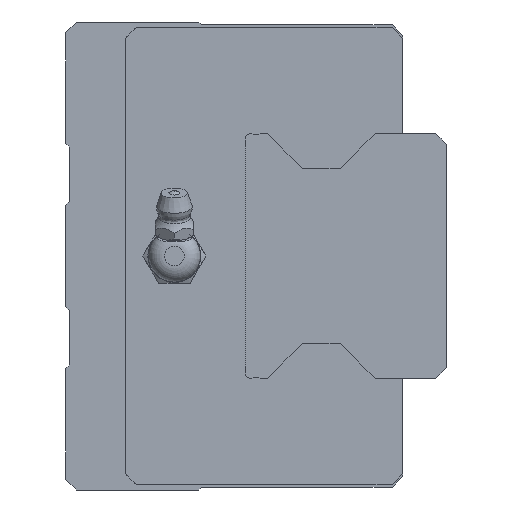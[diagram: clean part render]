
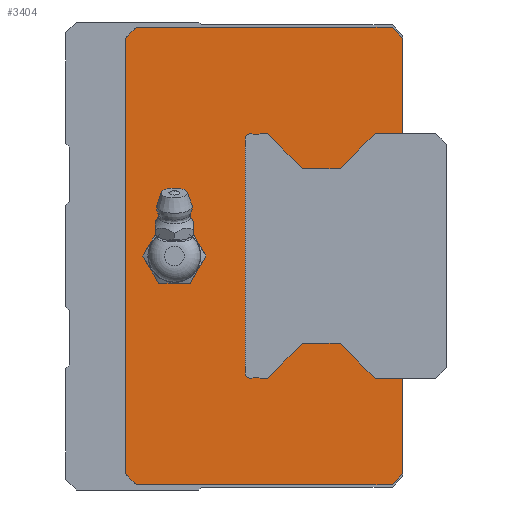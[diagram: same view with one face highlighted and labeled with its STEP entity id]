
A CAD part, left-side view. The second image highlights one B-rep face of the part: STEP entity #3404.
In plain terms, the highlighted planar face has unit normal (-1, 0, 0).
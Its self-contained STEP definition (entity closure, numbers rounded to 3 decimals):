
#168=CIRCLE('',#3718,4.989);
#169=CIRCLE('',#3719,0.26);
#170=CIRCLE('',#3720,0.26);
#171=CIRCLE('',#3721,1.);
#172=CIRCLE('',#3722,1.);
#173=CIRCLE('',#3723,0.26);
#174=CIRCLE('',#3724,0.26);
#654=ORIENTED_EDGE('',*,*,#1398,.T.);
#655=ORIENTED_EDGE('',*,*,#1399,.T.);
#656=ORIENTED_EDGE('',*,*,#1391,.F.);
#657=ORIENTED_EDGE('',*,*,#1361,.F.);
#658=ORIENTED_EDGE('',*,*,#1357,.F.);
#659=ORIENTED_EDGE('',*,*,#1349,.F.);
#660=ORIENTED_EDGE('',*,*,#1382,.F.);
#661=ORIENTED_EDGE('',*,*,#1334,.F.);
#662=ORIENTED_EDGE('',*,*,#1372,.F.);
#663=ORIENTED_EDGE('',*,*,#1369,.F.);
#664=ORIENTED_EDGE('',*,*,#1393,.F.);
#665=ORIENTED_EDGE('',*,*,#1400,.T.);
#666=ORIENTED_EDGE('',*,*,#1401,.T.);
#667=ORIENTED_EDGE('',*,*,#1402,.F.);
#668=ORIENTED_EDGE('',*,*,#1403,.T.);
#669=ORIENTED_EDGE('',*,*,#1404,.F.);
#670=ORIENTED_EDGE('',*,*,#1405,.T.);
#671=ORIENTED_EDGE('',*,*,#1406,.T.);
#672=ORIENTED_EDGE('',*,*,#1407,.T.);
#673=ORIENTED_EDGE('',*,*,#1408,.T.);
#674=ORIENTED_EDGE('',*,*,#1409,.T.);
#675=ORIENTED_EDGE('',*,*,#1410,.T.);
#676=ORIENTED_EDGE('',*,*,#1411,.T.);
#677=ORIENTED_EDGE('',*,*,#1412,.T.);
#678=ORIENTED_EDGE('',*,*,#1413,.T.);
#679=ORIENTED_EDGE('',*,*,#1414,.T.);
#680=ORIENTED_EDGE('',*,*,#1415,.T.);
#681=ORIENTED_EDGE('',*,*,#1416,.F.);
#682=ORIENTED_EDGE('',*,*,#1417,.T.);
#683=ORIENTED_EDGE('',*,*,#1418,.F.);
#684=ORIENTED_EDGE('',*,*,#1419,.T.);
#1334=EDGE_CURVE('',#1746,#1747,#2058,.T.);
#1349=EDGE_CURVE('',#1761,#1762,#2073,.T.);
#1357=EDGE_CURVE('',#1762,#1768,#2080,.T.);
#1361=EDGE_CURVE('',#1768,#1770,#2084,.T.);
#1369=EDGE_CURVE('',#1777,#1778,#2092,.T.);
#1372=EDGE_CURVE('',#1778,#1746,#2095,.T.);
#1382=EDGE_CURVE('',#1747,#1761,#2103,.T.);
#1391=EDGE_CURVE('',#1770,#1783,#2111,.T.);
#1393=EDGE_CURVE('',#1786,#1777,#2113,.T.);
#1398=EDGE_CURVE('',#1790,#1790,#168,.T.);
#1399=EDGE_CURVE('',#1791,#1783,#2118,.T.);
#1400=EDGE_CURVE('',#1786,#1792,#2119,.T.);
#1401=EDGE_CURVE('',#1792,#1793,#2120,.T.);
#1402=EDGE_CURVE('',#1794,#1793,#169,.T.);
#1403=EDGE_CURVE('',#1794,#1795,#2121,.T.);
#1404=EDGE_CURVE('',#1796,#1795,#170,.T.);
#1405=EDGE_CURVE('',#1796,#1797,#2122,.T.);
#1406=EDGE_CURVE('',#1797,#1798,#2123,.T.);
#1407=EDGE_CURVE('',#1798,#1799,#2124,.T.);
#1408=EDGE_CURVE('',#1799,#1800,#2125,.T.);
#1409=EDGE_CURVE('',#1800,#1801,#171,.T.);
#1410=EDGE_CURVE('',#1801,#1802,#2126,.T.);
#1411=EDGE_CURVE('',#1802,#1803,#172,.T.);
#1412=EDGE_CURVE('',#1803,#1804,#2127,.T.);
#1413=EDGE_CURVE('',#1804,#1805,#2128,.T.);
#1414=EDGE_CURVE('',#1805,#1806,#2129,.T.);
#1415=EDGE_CURVE('',#1806,#1807,#2130,.T.);
#1416=EDGE_CURVE('',#1808,#1807,#173,.T.);
#1417=EDGE_CURVE('',#1808,#1809,#2131,.T.);
#1418=EDGE_CURVE('',#1810,#1809,#174,.T.);
#1419=EDGE_CURVE('',#1810,#1791,#2132,.T.);
#1746=VERTEX_POINT('',#5260);
#1747=VERTEX_POINT('',#5262);
#1761=VERTEX_POINT('',#5291);
#1762=VERTEX_POINT('',#5293);
#1768=VERTEX_POINT('',#5309);
#1770=VERTEX_POINT('',#5316);
#1777=VERTEX_POINT('',#5331);
#1778=VERTEX_POINT('',#5333);
#1783=VERTEX_POINT('',#5362);
#1786=VERTEX_POINT('',#5372);
#1790=VERTEX_POINT('',#5383);
#1791=VERTEX_POINT('',#5385);
#1792=VERTEX_POINT('',#5387);
#1793=VERTEX_POINT('',#5389);
#1794=VERTEX_POINT('',#5391);
#1795=VERTEX_POINT('',#5393);
#1796=VERTEX_POINT('',#5395);
#1797=VERTEX_POINT('',#5397);
#1798=VERTEX_POINT('',#5399);
#1799=VERTEX_POINT('',#5401);
#1800=VERTEX_POINT('',#5403);
#1801=VERTEX_POINT('',#5405);
#1802=VERTEX_POINT('',#5407);
#1803=VERTEX_POINT('',#5409);
#1804=VERTEX_POINT('',#5411);
#1805=VERTEX_POINT('',#5413);
#1806=VERTEX_POINT('',#5415);
#1807=VERTEX_POINT('',#5417);
#1808=VERTEX_POINT('',#5419);
#1809=VERTEX_POINT('',#5421);
#1810=VERTEX_POINT('',#5423);
#2058=LINE('',#5261,#2346);
#2073=LINE('',#5292,#2361);
#2080=LINE('',#5308,#2368);
#2084=LINE('',#5315,#2372);
#2092=LINE('',#5332,#2380);
#2095=LINE('',#5337,#2383);
#2103=LINE('',#5353,#2391);
#2111=LINE('',#5369,#2399);
#2113=LINE('',#5374,#2401);
#2118=LINE('',#5384,#2406);
#2119=LINE('',#5386,#2407);
#2120=LINE('',#5388,#2408);
#2121=LINE('',#5392,#2409);
#2122=LINE('',#5396,#2410);
#2123=LINE('',#5398,#2411);
#2124=LINE('',#5400,#2412);
#2125=LINE('',#5402,#2413);
#2126=LINE('',#5406,#2414);
#2127=LINE('',#5410,#2415);
#2128=LINE('',#5412,#2416);
#2129=LINE('',#5414,#2417);
#2130=LINE('',#5416,#2418);
#2131=LINE('',#5420,#2419);
#2132=LINE('',#5424,#2420);
#2346=VECTOR('',#4278,1000.);
#2361=VECTOR('',#4295,1000.);
#2368=VECTOR('',#4308,1000.);
#2372=VECTOR('',#4314,1000.);
#2380=VECTOR('',#4324,1000.);
#2383=VECTOR('',#4329,1000.);
#2391=VECTOR('',#4349,1000.);
#2399=VECTOR('',#4363,1000.);
#2401=VECTOR('',#4367,1000.);
#2406=VECTOR('',#4376,1000.);
#2407=VECTOR('',#4377,1000.);
#2408=VECTOR('',#4378,1000.);
#2409=VECTOR('',#4381,1000.);
#2410=VECTOR('',#4384,1000.);
#2411=VECTOR('',#4385,1000.);
#2412=VECTOR('',#4386,1000.);
#2413=VECTOR('',#4387,1000.);
#2414=VECTOR('',#4390,1000.);
#2415=VECTOR('',#4393,1000.);
#2416=VECTOR('',#4394,1000.);
#2417=VECTOR('',#4395,1000.);
#2418=VECTOR('',#4396,1000.);
#2419=VECTOR('',#4399,1000.);
#2420=VECTOR('',#4402,1000.);
#2672=EDGE_LOOP('',(#654));
#2673=EDGE_LOOP('',(#655,#656,#657,#658,#659,#660,#661,#662,#663,#664,#665,
#666,#667,#668,#669,#670,#671,#672,#673,#674,#675,#676,#677,#678,#679,#680,
#681,#682,#683,#684));
#2999=FACE_BOUND('',#2672,.T.);
#3000=FACE_BOUND('',#2673,.T.);
#3246=PLANE('',#3717);
#3404=ADVANCED_FACE('',(#2999,#3000),#3246,.F.);
#3717=AXIS2_PLACEMENT_3D('',#5381,#4372,#4373);
#3718=AXIS2_PLACEMENT_3D('',#5382,#4374,#4375);
#3719=AXIS2_PLACEMENT_3D('',#5390,#4379,#4380);
#3720=AXIS2_PLACEMENT_3D('',#5394,#4382,#4383);
#3721=AXIS2_PLACEMENT_3D('',#5404,#4388,#4389);
#3722=AXIS2_PLACEMENT_3D('',#5408,#4391,#4392);
#3723=AXIS2_PLACEMENT_3D('',#5418,#4397,#4398);
#3724=AXIS2_PLACEMENT_3D('',#5422,#4400,#4401);
#4278=DIRECTION('',(0.,0.707,0.707));
#4295=DIRECTION('',(0.,-0.707,0.707));
#4308=DIRECTION('',(0.,-1.,0.));
#4314=DIRECTION('',(0.,-0.707,-0.707));
#4324=DIRECTION('',(0.,0.707,-0.707));
#4329=DIRECTION('',(0.,1.,0.));
#4349=DIRECTION('',(0.,0.,1.));
#4363=DIRECTION('',(0.,0.,-1.));
#4367=DIRECTION('',(0.,0.,-1.));
#4372=DIRECTION('',(1.,0.,0.));
#4373=DIRECTION('',(0.,0.,-1.));
#4374=DIRECTION('',(1.,0.,0.));
#4375=DIRECTION('',(0.,0.,-1.));
#4376=DIRECTION('',(0.,-1.,0.));
#4377=DIRECTION('',(0.,1.,0.));
#4378=DIRECTION('',(0.,0.707,0.707));
#4379=DIRECTION('',(1.,0.,0.));
#4380=DIRECTION('',(0.,0.,-1.));
#4381=DIRECTION('',(0.,1.,0.));
#4382=DIRECTION('',(1.,0.,0.));
#4383=DIRECTION('',(0.,0.,-1.));
#4384=DIRECTION('',(0.,0.707,-0.707));
#4385=DIRECTION('',(0.,1.,0.));
#4386=DIRECTION('',(0.,0.707,0.707));
#4387=DIRECTION('',(0.,1.,0.));
#4388=DIRECTION('',(1.,0.,0.));
#4389=DIRECTION('',(0.,0.,-1.));
#4390=DIRECTION('',(0.,0.,1.));
#4391=DIRECTION('',(1.,0.,0.));
#4392=DIRECTION('',(0.,0.,-1.));
#4393=DIRECTION('',(0.,-1.,0.));
#4394=DIRECTION('',(0.,-0.707,0.707));
#4395=DIRECTION('',(0.,-1.,0.));
#4396=DIRECTION('',(0.,-0.707,-0.707));
#4397=DIRECTION('',(1.,0.,0.));
#4398=DIRECTION('',(0.,0.,-1.));
#4399=DIRECTION('',(0.,-1.,0.));
#4400=DIRECTION('',(1.,0.,0.));
#4401=DIRECTION('',(0.,0.,-1.));
#4402=DIRECTION('',(0.,-0.707,0.707));
#5260=CARTESIAN_POINT('',(-115.75,49.,-42.));
#5261=CARTESIAN_POINT('',(-115.75,49.,-42.));
#5262=CARTESIAN_POINT('',(-115.75,51.,-40.));
#5291=CARTESIAN_POINT('',(-115.75,51.,40.));
#5292=CARTESIAN_POINT('',(-115.75,51.,40.));
#5293=CARTESIAN_POINT('',(-115.75,49.,42.));
#5308=CARTESIAN_POINT('',(-115.75,49.,42.));
#5309=CARTESIAN_POINT('',(-115.75,2.,42.));
#5315=CARTESIAN_POINT('',(-115.75,2.,42.));
#5316=CARTESIAN_POINT('',(-115.75,0.,40.));
#5331=CARTESIAN_POINT('',(-115.75,0.,-40.));
#5332=CARTESIAN_POINT('',(-115.75,0.,-40.));
#5333=CARTESIAN_POINT('',(-115.75,2.,-42.));
#5337=CARTESIAN_POINT('',(-115.75,2.,-42.));
#5353=CARTESIAN_POINT('',(-115.75,51.,-40.));
#5362=CARTESIAN_POINT('',(-115.75,0.,22.5));
#5369=CARTESIAN_POINT('',(-115.75,0.,40.));
#5372=CARTESIAN_POINT('',(-115.75,0.,-22.5));
#5374=CARTESIAN_POINT('',(-115.75,0.,40.));
#5381=CARTESIAN_POINT('',(-115.75,0.,0.));
#5382=CARTESIAN_POINT('',(-115.75,42.,0.));
#5383=CARTESIAN_POINT('',(-115.75,42.,-4.989));
#5384=CARTESIAN_POINT('',(-115.75,5.1,22.5));
#5385=CARTESIAN_POINT('',(-115.75,5.1,22.5));
#5386=CARTESIAN_POINT('',(-115.75,-6.,-22.5));
#5387=CARTESIAN_POINT('',(-115.75,5.1,-22.5));
#5388=CARTESIAN_POINT('',(-115.75,5.1,-22.5));
#5389=CARTESIAN_POINT('',(-115.75,11.524,-16.076));
#5390=CARTESIAN_POINT('',(-115.75,11.708,-16.26));
#5391=CARTESIAN_POINT('',(-115.75,11.708,-16.));
#5392=CARTESIAN_POINT('',(-115.75,11.708,-16.));
#5393=CARTESIAN_POINT('',(-115.75,18.292,-16.));
#5394=CARTESIAN_POINT('',(-115.75,18.292,-16.26));
#5395=CARTESIAN_POINT('',(-115.75,18.476,-16.076));
#5396=CARTESIAN_POINT('',(-115.75,18.476,-16.076));
#5397=CARTESIAN_POINT('',(-115.75,24.9,-22.5));
#5398=CARTESIAN_POINT('',(-115.75,24.9,-22.5));
#5399=CARTESIAN_POINT('',(-115.75,26.25,-22.5));
#5400=CARTESIAN_POINT('',(-115.75,26.25,-22.5));
#5401=CARTESIAN_POINT('',(-115.75,26.5,-22.25));
#5402=CARTESIAN_POINT('',(-115.75,26.5,-22.25));
#5403=CARTESIAN_POINT('',(-115.75,27.339,-22.25));
#5404=CARTESIAN_POINT('',(-115.75,28.,-21.5));
#5405=CARTESIAN_POINT('',(-115.75,29.,-21.5));
#5406=CARTESIAN_POINT('',(-115.75,29.,-21.5));
#5407=CARTESIAN_POINT('',(-115.75,29.,21.5));
#5408=CARTESIAN_POINT('',(-115.75,28.,21.5));
#5409=CARTESIAN_POINT('',(-115.75,27.339,22.25));
#5410=CARTESIAN_POINT('',(-115.75,27.339,22.25));
#5411=CARTESIAN_POINT('',(-115.75,26.5,22.25));
#5412=CARTESIAN_POINT('',(-115.75,26.5,22.25));
#5413=CARTESIAN_POINT('',(-115.75,26.25,22.5));
#5414=CARTESIAN_POINT('',(-115.75,26.25,22.5));
#5415=CARTESIAN_POINT('',(-115.75,24.9,22.5));
#5416=CARTESIAN_POINT('',(-115.75,24.9,22.5));
#5417=CARTESIAN_POINT('',(-115.75,18.476,16.076));
#5418=CARTESIAN_POINT('',(-115.75,18.292,16.26));
#5419=CARTESIAN_POINT('',(-115.75,18.292,16.));
#5420=CARTESIAN_POINT('',(-115.75,18.292,16.));
#5421=CARTESIAN_POINT('',(-115.75,11.708,16.));
#5422=CARTESIAN_POINT('',(-115.75,11.708,16.26));
#5423=CARTESIAN_POINT('',(-115.75,11.524,16.076));
#5424=CARTESIAN_POINT('',(-115.75,11.524,16.076));
